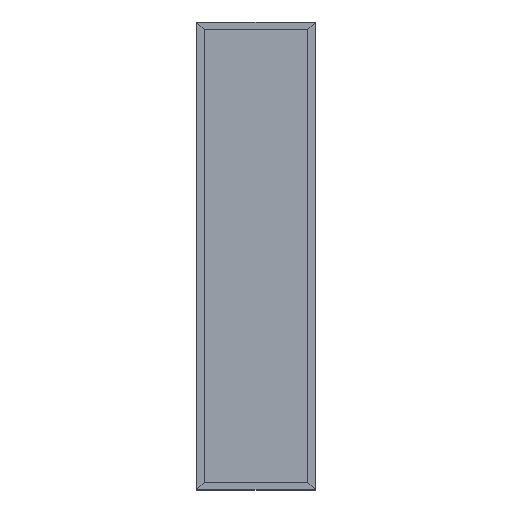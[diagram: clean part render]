
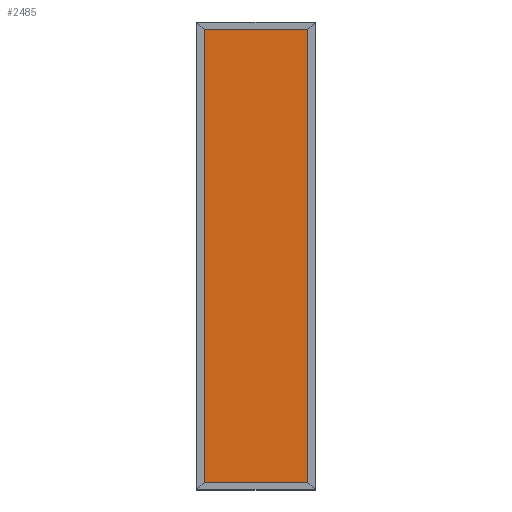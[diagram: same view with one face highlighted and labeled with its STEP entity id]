
A CAD part, top view. The second image highlights one B-rep face of the part: STEP entity #2485.
In plain terms, the highlighted planar face has unit normal (0, 0, 1).
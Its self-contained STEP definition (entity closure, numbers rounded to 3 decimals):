
#158 = VERTEX_POINT ( 'NONE', #7989 ) ;
#658 = VECTOR ( 'NONE', #9025, 1000. ) ;
#1109 = PLANE ( 'NONE',  #13868 ) ;
#2131 = LINE ( 'NONE', #12796, #12525 ) ;
#2485 = ADVANCED_FACE ( 'NONE', ( #15022 ), #1109, .F. ) ;
#2644 = DIRECTION ( 'NONE',  ( 0., 0., -1. ) ) ;
#3106 = VERTEX_POINT ( 'NONE', #18739 ) ;
#5565 = CARTESIAN_POINT ( 'NONE',  ( 0., 1162.2, -13.25 ) ) ;
#6077 = LINE ( 'NONE', #15212, #13362 ) ;
#6508 = DIRECTION ( 'NONE',  ( -1., 0., 0. ) ) ;
#6928 = ORIENTED_EDGE ( 'NONE', *, *, #15425, .F. ) ;
#6942 = EDGE_LOOP ( 'NONE', ( #16492, #10036, #10805, #6928 ) ) ;
#7989 = CARTESIAN_POINT ( 'NONE',  ( -267.075, -1162.2, -13.25 ) ) ;
#8104 = VERTEX_POINT ( 'NONE', #19132 ) ;
#8567 = EDGE_CURVE ( 'NONE', #8104, #3106, #2131, .T. ) ;
#9025 = DIRECTION ( 'NONE',  ( -1., 0., 0. ) ) ;
#9412 = VECTOR ( 'NONE', #6508, 1000. ) ;
#10036 = ORIENTED_EDGE ( 'NONE', *, *, #8567, .T. ) ;
#10805 = ORIENTED_EDGE ( 'NONE', *, *, #13030, .T. ) ;
#12525 = VECTOR ( 'NONE', #19006, 1000. ) ;
#12796 = CARTESIAN_POINT ( 'NONE',  ( 267.075, 0., -13.25 ) ) ;
#13030 = EDGE_CURVE ( 'NONE', #3106, #14975, #19486, .T. ) ;
#13362 = VECTOR ( 'NONE', #16533, 1000. ) ;
#13868 = AXIS2_PLACEMENT_3D ( 'NONE', #16652, #2644, #16449 ) ;
#14975 = VERTEX_POINT ( 'NONE', #20022 ) ;
#15022 = FACE_OUTER_BOUND ( 'NONE', #6942, .T. ) ;
#15212 = CARTESIAN_POINT ( 'NONE',  ( -267.075, 0., -13.25 ) ) ;
#15425 = EDGE_CURVE ( 'NONE', #158, #14975, #6077, .T. ) ;
#16449 = DIRECTION ( 'NONE',  ( -1., 0., 0. ) ) ;
#16492 = ORIENTED_EDGE ( 'NONE', *, *, #16621, .F. ) ;
#16533 = DIRECTION ( 'NONE',  ( 0., 1., 0. ) ) ;
#16621 = EDGE_CURVE ( 'NONE', #8104, #158, #17583, .T. ) ;
#16652 = CARTESIAN_POINT ( 'NONE',  ( 0., 0., -13.25 ) ) ;
#17583 = LINE ( 'NONE', #19113, #9412 ) ;
#18739 = CARTESIAN_POINT ( 'NONE',  ( 267.075, 1162.2, -13.25 ) ) ;
#19006 = DIRECTION ( 'NONE',  ( 0., 1., 0. ) ) ;
#19113 = CARTESIAN_POINT ( 'NONE',  ( 0., -1162.2, -13.25 ) ) ;
#19132 = CARTESIAN_POINT ( 'NONE',  ( 267.075, -1162.2, -13.25 ) ) ;
#19486 = LINE ( 'NONE', #5565, #658 ) ;
#20022 = CARTESIAN_POINT ( 'NONE',  ( -267.075, 1162.2, -13.25 ) ) ;
